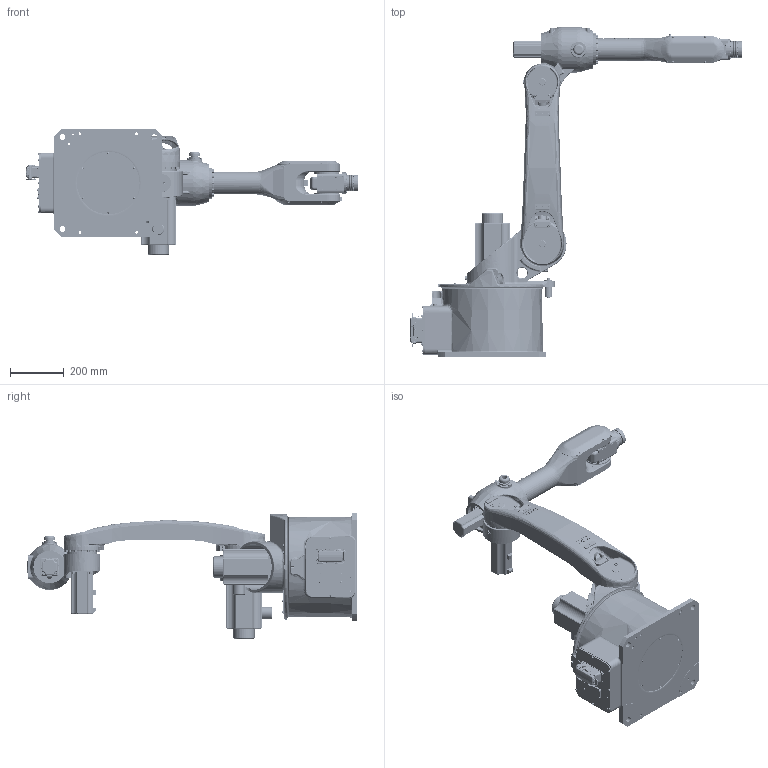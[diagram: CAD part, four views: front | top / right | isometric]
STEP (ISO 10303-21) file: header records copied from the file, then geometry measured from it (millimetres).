
FILE_DESCRIPTION(('STEP AP214'),'1');
FILE_NAME('TSR142-10.stp','2020-05-11T05:54:11',(' '),(' '),'Spatial InterOp 3D',' ',' ');
FILE_SCHEMA(('AUTOMOTIVE_DESIGN { 1 0 10303 214 1 1 1 1 }'));
Length unit declared in the file: millimetre
Products named in the file (8): TSR142-10; J3______; J6______1; J4______; ________; ____; J5______; J1______
Assembly tree (7 placements, depth 2):
  TSR142-10
    J3______
    J6______1
    J4______
    ________
    ____
    J5______
    J1______
Bounding box: 1229.86 x 1225 x 466.5 mm (x, y, z)
Volume: 25134497 mm3; surface area: 4238129.2 mm2
Topology: 105 solids, 3766 shells, 13006 faces, 41433 edges, 32587 vertices
Faces by surface type: plane 5776, cylinder 4160, bspline 1261, cone 1000, torus 684, sphere 125
Entity records: 837482 total; most frequent: CARTESIAN_POINT 354875, DIRECTION 66824, ORIENTED_EDGE 62770, EDGE_CURVE 40831, VERTEX_POINT 32587, AXIS2_PLACEMENT_3D 23735, LINE 19354, VECTOR 19354
